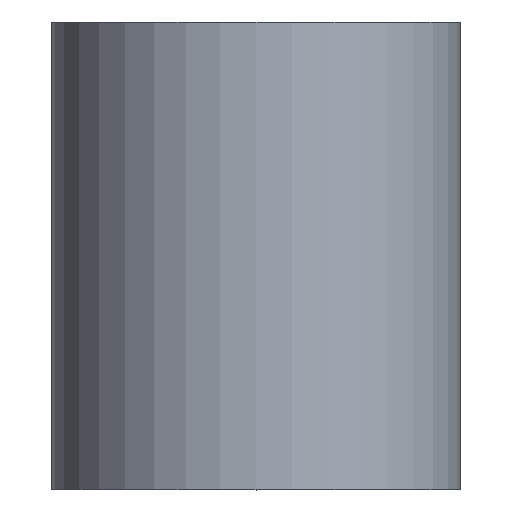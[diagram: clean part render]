
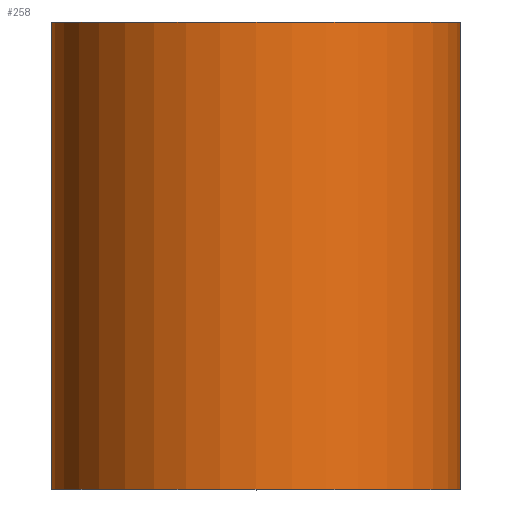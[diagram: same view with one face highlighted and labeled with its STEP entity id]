
A CAD part, top view. The second image highlights one B-rep face of the part: STEP entity #258.
In plain terms, the highlighted cylindrical face has radius 3.5 mm (diameter 7 mm), a partial arc.
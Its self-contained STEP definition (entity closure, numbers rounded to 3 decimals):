
#2 = CARTESIAN_POINT ( 'NONE',  ( 0., 8., 0. ) ) ;
#3 = CARTESIAN_POINT ( 'NONE',  ( 3.5, 0., 0. ) ) ;
#10 = CARTESIAN_POINT ( 'NONE',  ( -3.5, 8., 0. ) ) ;
#17 = EDGE_CURVE ( 'NONE', #224, #45, #271, .T. ) ;
#18 = ORIENTED_EDGE ( 'NONE', *, *, #34, .F. ) ;
#22 = DIRECTION ( 'NONE',  ( -1., 0., 0. ) ) ;
#23 = FACE_OUTER_BOUND ( 'NONE', #200, .T. ) ;
#31 = CYLINDRICAL_SURFACE ( 'NONE', #194, 3.5 ) ;
#34 = EDGE_CURVE ( 'NONE', #212, #296, #249, .T. ) ;
#38 = CARTESIAN_POINT ( 'NONE',  ( 3.5, 8., 0. ) ) ;
#45 = VERTEX_POINT ( 'NONE', #38 ) ;
#60 = ORIENTED_EDGE ( 'NONE', *, *, #270, .T. ) ;
#65 = DIRECTION ( 'NONE',  ( 0., 1., 0. ) ) ;
#67 = CARTESIAN_POINT ( 'NONE',  ( -3.5, 0., 0. ) ) ;
#74 = ORIENTED_EDGE ( 'NONE', *, *, #88, .F. ) ;
#76 = CARTESIAN_POINT ( 'NONE',  ( 0., 0., 0. ) ) ;
#88 = EDGE_CURVE ( 'NONE', #296, #45, #183, .T. ) ;
#103 = DIRECTION ( 'NONE',  ( -1., 0., 0. ) ) ;
#109 = AXIS2_PLACEMENT_3D ( 'NONE', #2, #165, #220 ) ;
#140 = ORIENTED_EDGE ( 'NONE', *, *, #17, .T. ) ;
#165 = DIRECTION ( 'NONE',  ( 0., 1., 0. ) ) ;
#167 = DIRECTION ( 'NONE',  ( 0., 1., 0. ) ) ;
#170 = CARTESIAN_POINT ( 'NONE',  ( -3.5, 0., 0. ) ) ;
#181 = CARTESIAN_POINT ( 'NONE',  ( 0., 0., 0. ) ) ;
#183 = CIRCLE ( 'NONE', #109, 3.5 ) ;
#186 = VECTOR ( 'NONE', #65, 1000. ) ;
#188 = DIRECTION ( 'NONE',  ( 0., 1., 0. ) ) ;
#194 = AXIS2_PLACEMENT_3D ( 'NONE', #76, #167, #22 ) ;
#200 = EDGE_LOOP ( 'NONE', ( #60, #140, #74, #18 ) ) ;
#212 = VERTEX_POINT ( 'NONE', #170 ) ;
#220 = DIRECTION ( 'NONE',  ( -1., 0., 0. ) ) ;
#224 = VERTEX_POINT ( 'NONE', #243 ) ;
#235 = AXIS2_PLACEMENT_3D ( 'NONE', #181, #292, #103 ) ;
#243 = CARTESIAN_POINT ( 'NONE',  ( 3.5, 0., 0. ) ) ;
#249 = LINE ( 'NONE', #67, #186 ) ;
#252 = VECTOR ( 'NONE', #188, 1000. ) ;
#258 = ADVANCED_FACE ( 'NONE', ( #23 ), #31, .T. ) ;
#270 = EDGE_CURVE ( 'NONE', #212, #224, #280, .T. ) ;
#271 = LINE ( 'NONE', #3, #252 ) ;
#280 = CIRCLE ( 'NONE', #235, 3.5 ) ;
#292 = DIRECTION ( 'NONE',  ( 0., 1., 0. ) ) ;
#296 = VERTEX_POINT ( 'NONE', #10 ) ;
